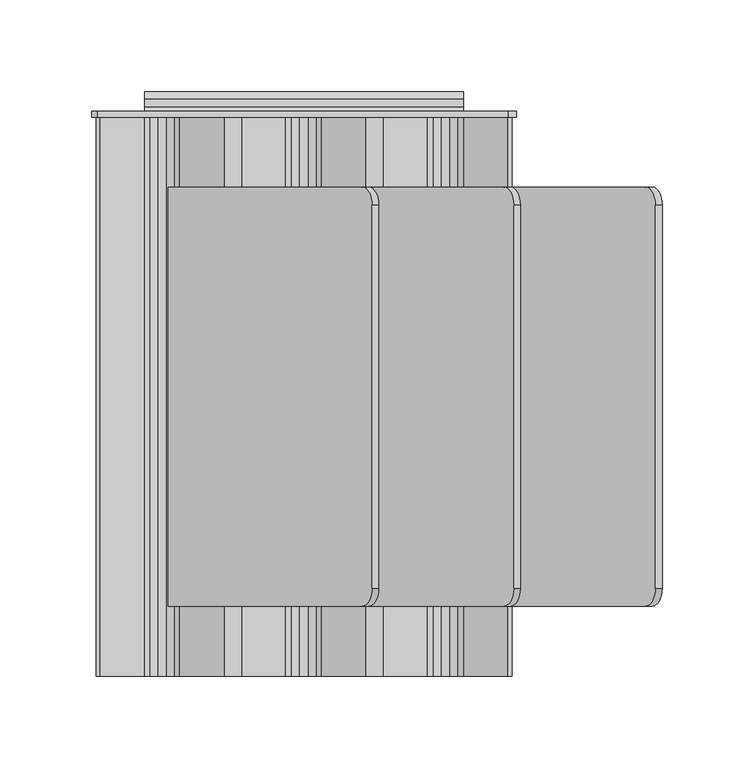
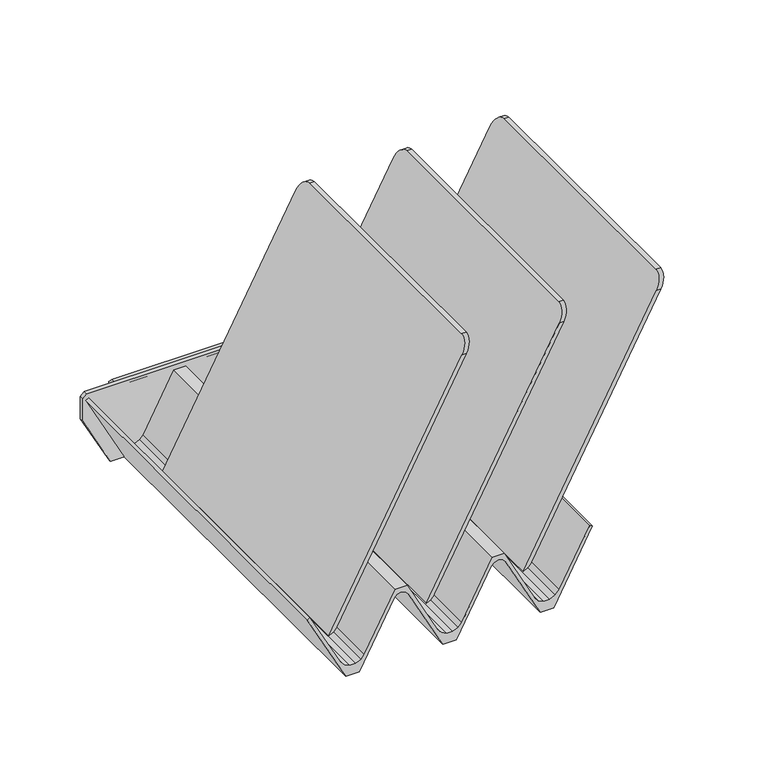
"""IFC4 building model written with IfcOpenShell, lengths in millimetres: furniture geometry."""

from ifc_helpers import new_model, si_unit, point, frame, frame_2d, origin, place, context, project, spatial, polyline, circle_curve, ellipse_curve, trimmed, segment, composite_curve, outline, extrude, source, transform, mapped, element, save
from ifc_brep_helpers import plane_surface, cylinder_surface, advanced_brep


def furniture_bb782dc1(model_context):
    return source(origin(), model_context, "Body", "SolidModel", [
        advanced_brep(
        [(-78.5076305, -115.8875182, 692.15), (-74.9117341, -115.8875182, 692.15), (35.3237269, -115.8875182, 899.4727434), (31.7278836, -115.8875182, 899.4727434), (-74.9117341, 112.7124864, 692.15), (-78.5076305, 112.7124864, 692.15), (31.7278836, 112.7124864, 899.4727434), (35.3237269, 112.7124864, 899.4727434), (40.728424, 102.8883555, 909.6375), (40.728424, -105.9830355, 909.6375), (37.1325833, 102.8883555, 909.6375), (37.1325833, -105.9830355, 909.6375)],
        [
            (0, 1),
            (1, 2),
            (2, 3),
            (3, 0),
            (4, 5),
            (5, 6),
            (6, 7),
            (7, 4),
            (0, 5),
            (4, 1),
            (7, 8, ellipse_curve(frame((35.3237269, 102.5418246, 899.4727434), z_axis=(0.8829475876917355, 0.0, -0.46947157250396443), x_axis=(-0.4694715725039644, 0.0, -0.8829475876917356)), 11.518987, 10.1706618)),
            (8, 9),
            (9, 2, ellipse_curve(frame((35.3237269, -105.7193418, 899.4727434), z_axis=(0.8829475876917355, 0.0, -0.46947157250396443), x_axis=(-0.4694715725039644, 0.0, -0.8829475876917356)), 11.5161721, 10.1681764)),
            (8, 10),
            (10, 11),
            (11, 9),
            (3, 11, ellipse_curve(frame((31.7278836, -105.7193418, 899.4727434), z_axis=(-0.8829474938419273, 0.0, 0.4694717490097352), x_axis=(-0.4694717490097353, 0.0, -0.8829474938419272)), 11.5161734, 10.1681764)),
            (10, 6, ellipse_curve(frame((31.7278836, 102.5418246, 899.4727434), z_axis=(-0.8829474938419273, 0.0, 0.4694717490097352), x_axis=(-0.4694717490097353, 0.0, -0.8829474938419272)), 11.5189882, 10.1706618)),
        ],
        [
            plane_surface(frame((-78.5076305, -115.8875182, 692.15), z_axis=(0.0, -1.0, 0.0), x_axis=(1.0, 0.0, 0.0))),
            plane_surface(frame((-78.5076305, 112.7124864, 692.15), z_axis=(0.0, 1.0, 0.0), x_axis=(-1.0, 0.0, 0.0))),
            plane_surface(frame((-78.5076305, -115.8875182, 692.15), z_axis=(0.0, 0.0, -1.0), x_axis=(0.0, 1.0, 0.0))),
            plane_surface(frame((-74.9117341, -115.8875182, 692.15), z_axis=(0.8829475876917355, 0.0, -0.46947157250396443), x_axis=(0.0, 1.0, 0.0))),
            plane_surface(frame((40.728424, -115.8875182, 909.6375), z_axis=(0.0, 0.0, 1.0), x_axis=(0.0, 1.0, 0.0))),
            plane_surface(frame((37.1325833, -115.8875182, 909.6375), z_axis=(-0.8829474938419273, 0.0, 0.4694717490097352), x_axis=(0.0, 1.0, 0.0))),
            cylinder_surface(frame((0.0, 102.5418246, 899.4727434), z_axis=(-1.0, 0.0, 0.0), x_axis=(0.0, 1.0, 0.0)), 10.1706618),
            cylinder_surface(frame((0.0, -105.7193418, 899.4727434), z_axis=(-1.0, 0.0, 0.0), x_axis=(0.0, 1.0, 0.0)), 10.1681764),
        ],
        [
            (0, [[1, 2, 3, 4]]),
            (1, [[5, 6, 7, 8]]),
            (2, [[-1, 9, -5, 10]]),
            (3, [[-10, -8, 11, 12, 13, -2]]),
            (4, [[-12, 14, 15, 16]]),
            (5, [[-9, -4, 17, -15, 18, -6]]),
            (6, [[-7, -18, -14, -11]]),
            (7, [[-3, -13, -16, -17]]),
        ],
    ),
        advanced_brep(
        [(-0.9107932, -115.8875182, 692.15), (2.3550823, -115.8875182, 692.15), (112.5905464, -115.8875182, 899.4727434), (109.0097063, -115.8875182, 899.4727434), (2.3550823, 112.7124864, 692.15), (-0.9107932, 112.7124864, 692.15), (109.0097063, 112.7124864, 899.4727434), (112.5905464, 112.7124864, 899.4727434), (117.9952436, 102.8883555, 909.6375), (117.9952436, -105.9830355, 909.6375), (114.3989613, 102.8883555, 909.6375), (114.3989613, -105.9830355, 909.6375)],
        [
            (0, 1),
            (1, 2),
            (2, 3),
            (3, 0),
            (4, 5),
            (5, 6),
            (6, 7),
            (7, 4),
            (0, 5),
            (4, 1),
            (7, 8, ellipse_curve(frame((112.5905464, 102.5418246, 899.4727434), z_axis=(0.882947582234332, 0.0, -0.4694715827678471), x_axis=(-0.4694715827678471, 0.0, -0.8829475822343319)), 11.518987, 10.1706618)),
            (8, 9),
            (9, 2, ellipse_curve(frame((112.5905464, -105.7193418, 899.4727434), z_axis=(0.882947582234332, 0.0, -0.4694715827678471), x_axis=(-0.4694715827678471, 0.0, -0.8829475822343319)), 11.5161722, 10.1681764)),
            (8, 10),
            (10, 11),
            (11, 9),
            (3, 11, ellipse_curve(frame((109.0097063, -105.7193418, 899.4727434), z_axis=(-0.88350333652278, 0.0, 0.4684248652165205), x_axis=(-0.4684248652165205, 0.0, -0.8835033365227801)), 11.5089281, 10.1681764)),
            (10, 6, ellipse_curve(frame((109.0097063, 102.5418246, 899.4727434), z_axis=(-0.88350333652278, 0.0, 0.4684248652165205), x_axis=(-0.4684248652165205, 0.0, -0.8835033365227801)), 11.5117412, 10.1706618)),
        ],
        [
            plane_surface(frame((-78.5076305, -115.8875182, 692.15), z_axis=(0.0, -1.0, 0.0), x_axis=(1.0, 0.0, 0.0))),
            plane_surface(frame((-78.5076305, 112.7124864, 692.15), z_axis=(0.0, 1.0, 0.0), x_axis=(-1.0, 0.0, 0.0))),
            plane_surface(frame((-0.9107932, -115.8875182, 692.15), z_axis=(0.0, 0.0, -1.0), x_axis=(0.0, 1.0, 0.0))),
            plane_surface(frame((2.3550823, -115.8875182, 692.15), z_axis=(0.882947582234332, 0.0, -0.4694715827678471), x_axis=(0.0, 1.0, 0.0))),
            plane_surface(frame((117.9952436, -115.8875182, 909.6375), z_axis=(0.0, 0.0, 1.0), x_axis=(0.0, 1.0, 0.0))),
            plane_surface(frame((114.3989613, -115.8875182, 909.6375), z_axis=(-0.88350333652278, 0.0, 0.4684248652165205), x_axis=(0.0, 1.0, 0.0))),
            cylinder_surface(frame((0.0, 102.5418246, 899.4727434), z_axis=(-1.0, 0.0, 0.0), x_axis=(0.0, 1.0, 0.0)), 10.1706618),
            cylinder_surface(frame((0.0, -105.7193418, 899.4727434), z_axis=(-1.0, 0.0, 0.0), x_axis=(0.0, 1.0, 0.0)), 10.1681764),
        ],
        [
            (0, [[1, 2, 3, 4]]),
            (1, [[5, 6, 7, 8]]),
            (2, [[-1, 9, -5, 10]]),
            (3, [[-10, -8, 11, 12, 13, -2]]),
            (4, [[-12, 14, 15, 16]]),
            (5, [[-9, -4, 17, -15, 18, -6]]),
            (6, [[-7, -18, -14, -11]]),
            (7, [[-3, -13, -16, -17]]),
        ],
    ),
        advanced_brep(
        [(76.0259689, -115.8875182, 692.15), (79.7811739, -115.8875182, 692.15), (190.0166176, -115.8875182, 899.4727434), (186.2614289, -115.8875182, 899.4727434), (79.7811739, 112.7124864, 692.15), (76.0259689, 112.7124864, 692.15), (186.2614289, 112.7124864, 899.4727434), (190.0166176, 112.7124864, 899.4727434), (195.4213139, 102.8883555, 909.6375), (195.4213139, -105.9830355, 909.6375), (191.666126, 102.8883555, 909.6375), (191.666126, -105.9830355, 909.6375)],
        [
            (0, 1),
            (1, 2),
            (2, 3),
            (3, 0),
            (4, 5),
            (5, 6),
            (6, 7),
            (7, 4),
            (0, 5),
            (4, 1),
            (7, 8, ellipse_curve(frame((190.0166176, 102.5418246, 899.4727434), z_axis=(0.8829476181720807, 0.0, -0.4694715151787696), x_axis=(-0.46947151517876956, 0.0, -0.8829476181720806)), 11.5189866, 10.1706618)),
            (8, 9),
            (9, 2, ellipse_curve(frame((190.0166176, -105.7193418, 899.4727434), z_axis=(0.8829476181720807, 0.0, -0.4694715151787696), x_axis=(-0.46947151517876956, 0.0, -0.8829476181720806)), 11.5161717, 10.1681764)),
            (8, 10),
            (10, 11),
            (11, 9),
            (3, 11, ellipse_curve(frame((186.2614289, -105.7193418, 899.4727434), z_axis=(-0.8829475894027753, 0.0, 0.4694715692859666), x_axis=(-0.46947156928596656, 0.0, -0.8829475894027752)), 11.5161721, 10.1681764)),
            (10, 6, ellipse_curve(frame((186.2614289, 102.5418246, 899.4727434), z_axis=(-0.8829475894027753, 0.0, 0.4694715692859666), x_axis=(-0.46947156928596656, 0.0, -0.8829475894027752)), 11.5189869, 10.1706618)),
        ],
        [
            plane_surface(frame((-78.5076305, -115.8875182, 692.15), z_axis=(0.0, -1.0, 0.0), x_axis=(1.0, 0.0, 0.0))),
            plane_surface(frame((-78.5076305, 112.7124864, 692.15), z_axis=(0.0, 1.0, 0.0), x_axis=(-1.0, 0.0, 0.0))),
            plane_surface(frame((76.0259689, -115.8875182, 692.15), z_axis=(0.0, 0.0, -1.0), x_axis=(0.0, 1.0, 0.0))),
            plane_surface(frame((79.7811739, -115.8875182, 692.15), z_axis=(0.8829476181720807, 0.0, -0.4694715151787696), x_axis=(0.0, 1.0, 0.0))),
            plane_surface(frame((195.4213139, -115.8875182, 909.6375), z_axis=(0.0, 0.0, 1.0), x_axis=(0.0, 1.0, 0.0))),
            plane_surface(frame((191.666126, -115.8875182, 909.6375), z_axis=(-0.8829475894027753, 0.0, 0.4694715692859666), x_axis=(0.0, 1.0, 0.0))),
            cylinder_surface(frame((0.0, 102.5418246, 899.4727434), z_axis=(-1.0, 0.0, 0.0), x_axis=(0.0, 1.0, 0.0)), 10.1706618),
            cylinder_surface(frame((0.0, -105.7193418, 899.4727434), z_axis=(-1.0, 0.0, 0.0), x_axis=(0.0, 1.0, 0.0)), 10.1681764),
        ],
        [
            (0, [[1, 2, 3, 4]]),
            (1, [[5, 6, 7, 8]]),
            (2, [[-1, 9, -5, 10]]),
            (3, [[-10, -8, 11, 12, 13, -2]]),
            (4, [[-12, 14, 15, 16]]),
            (5, [[-9, -4, 17, -15, 18, -6]]),
            (6, [[-7, -18, -14, -11]]),
            (7, [[-3, -13, -16, -17]]),
        ],
    ),
        extrude(outline(polyline([(750.3365504, -113.3404132), (692.15, -82.6180755), (692.15, -71.8286766), (744.6740623, -44.096121), (746.9406431, -41.9545616), (747.8523762, -38.676187), (746.9406431, -35.3978079), (744.4672571, -33.0608503), (692.15, -5.4374818), (692.15, 5.4381185), (744.6740614, 33.170679), (746.9406431, 35.3122394), (747.8523762, 38.5906094), (746.9406431, 41.8689885), (744.4114359, 44.2586883), (692.15, 71.9155202), (692.15, 82.7049229), (750.336546, 113.4272483), (751.4528432, 111.3130508), (706.0055096, 87.1482781), (702.3501541, 84.0519156), (700.3357104, 79.7054876), (700.3357104, 74.9149551), (702.3501541, 70.5685271), (706.1105361, 67.3831993), (751.5224984, 43.2968127), (751.5224984, 33.9240014), (705.5004275, 9.4536309), (702.3501541, 6.7851111), (700.3357104, 2.4386922), (700.3357104, -2.3518493), (702.7854746, -6.6982682), (706.3449621, -9.9738698), (751.5224984, -33.8274808), (751.5224984, -43.3428158), (705.5003747, -67.8132137), (702.3501541, -70.4816887), (700.3357104, -74.8281031), (700.3357104, -79.6186492), (702.3501541, -83.9650636), (706.0055262, -87.0614424), (751.522503, -111.0942793), (750.3365504, -113.3404132)])), frame((0.0, -153.9875, 0.0), z_axis=(0.0, 1.0, 0.0), x_axis=(0.0, 0.0, 1.0)), (0.0, 0.0, 1.0), 304.7999878),
        extrude(outline(polyline([(752.4749994, -115.844077), (733.8399607, -115.844077), (692.15, -93.8318941), (692.15, 93.918737), (733.8399607, 115.930929), (752.4749984, 115.930929), (755.6499985, 111.5932577), (755.6499985, -112.669078), (752.4749994, -115.844077)])), frame((0.0, 150.8124878, 0.0), z_axis=(0.0, 1.0, 0.0), x_axis=(0.0, 0.0, 1.0)), (0.0, 0.0, 1.0), 3.1750122),
        extrude(outline(composite_curve([segment(polyline([(164.6784774, 748.6612114), (164.6784774, 746.0834605)]), True, "CONTINUOUS"), segment(trimmed(circle_curve(frame_2d((162.7734784, 746.0834605)), 1.904999), [point((164.6784774, 746.0834605))], [point((160.8684793, 746.0834605))], False, "CARTESIAN"), True, "CONTINUOUS"), segment(polyline([(160.8684793, 746.0834605), (160.8684793, 748.6612114), (156.5435882, 748.6612114), (153.9875, 746.1051232), (153.9875, 755.6499985), (156.5435882, 752.4712113), (160.8684775, 752.4712113), (164.6784774, 748.6612114)]), True, "CONTINUOUS")], self_intersect=False)), frame((-87.0345642, 0.0, 0.0), z_axis=(1.0, 0.0, 0.0), x_axis=(0.0, 1.0, 0.0)), (0.0, 0.0, 1.0), 174.0691284),
    ])


if __name__ == "__main__":
    model = new_model("IFC4")
    model_context = context("Model", 3, world=origin())
    ifc_project = project(units=[si_unit("LENGTHUNIT", "METRE", prefix="MILLI")], contexts=[model_context])
    site = spatial("IfcSite", under=ifc_project)
    building = spatial("IfcBuilding", under=site)
    placement = place(None, origin())
    furniture_shape = furniture_bb782dc1(model_context)
    element("IfcFurniture", 1, ObjectType="HermanMiller_ThrivePortfolio_Y7218_DiagonalTray : 8 1/2\"H x 12\"D x 13\"W", at=placement, inside=building, context=model_context, shape_type="MappedRepresentation", body=[
        mapped(furniture_shape, transform((0.0, 0.0, 0.0), x_axis=(1.0, 0.0, 0.0), y_axis=(0.0, 1.0, 0.0), z_axis=(0.0, 0.0, 1.0))),
    ])
    save(model, "model.ifc")
